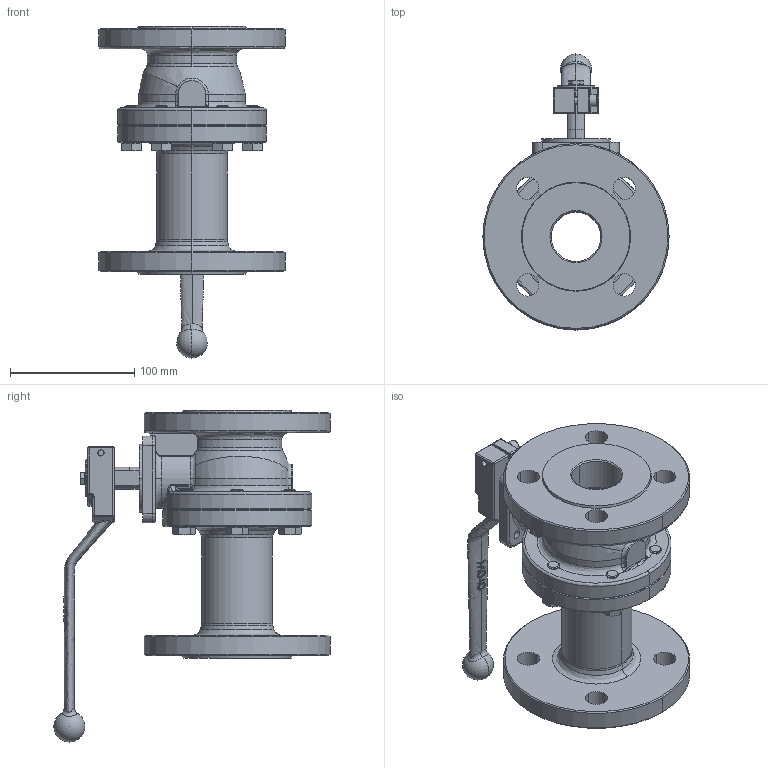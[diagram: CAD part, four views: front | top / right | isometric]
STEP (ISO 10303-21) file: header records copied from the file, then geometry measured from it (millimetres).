
FILE_DESCRIPTION (( 'STEP AP214' ), '1' );
FILE_NAME ('0340040.STEP', '2015-06-15T07:45:34', ( 'pere' ), ( '' ), 'SwSTEP 2.0', 'SolidWorks 2013', '' );
FILE_SCHEMA (( 'AUTOMOTIVE_DESIGN' ));
Length unit declared in the file: millimetre
Products named in the file (9): 0340040L; 0540040C; 0340040; DIN 912 M6 x 20 --- 20C_DIN 912 M6 x 20 --- 20C; ISO 4017 - M10 x 30-N_ISO 4017 - M10 x 30-N; ISO 4017 - M6 x 12-N_ISO 4017 - M6 x 12-N; 5130_17; M040; EPI40Q
Assembly tree (13 placements, depth 2):
  0340040
    0540040C
    0340040L
    EPI40Q
    M040
    5130_17
    ISO 4017 - M6 x 12-N_ISO 4017 - M6 x 12-N
    ISO 4017 - M10 x 30-N_ISO 4017 - M10 x 30-N  x6
    DIN 912 M6 x 20 --- 20C_DIN 912 M6 x 20 --- 20C
Bounding box: 150 x 222.68 x 267.5 mm (x, y, z)
Volume: 1183215.5 mm3; surface area: 237276.2 mm2
Topology: 13 solids, 13 shells, 752 faces, 1808 edges, 1076 vertices
Faces by surface type: cylinder 229, plane 226, cone 125, bspline 124, torus 32, sphere 16
Entity records: 37381 total; most frequent: CARTESIAN_POINT 23440, ORIENTED_EDGE 2934, DIRECTION 2610, EDGE_CURVE 1467, AXIS2_PLACEMENT_3D 1062, VERTEX_POINT 903, EDGE_LOOP 694, FACE_OUTER_BOUND 607
